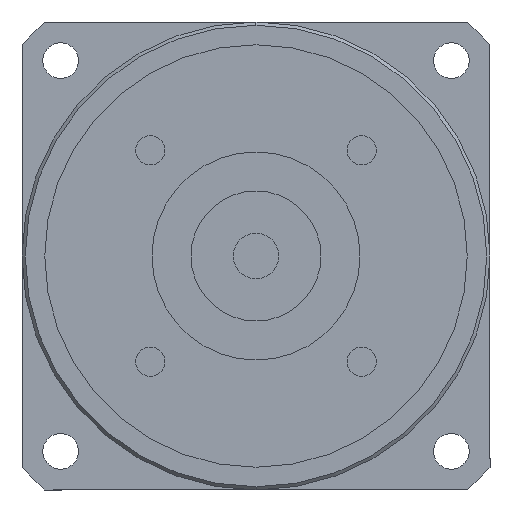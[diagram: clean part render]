
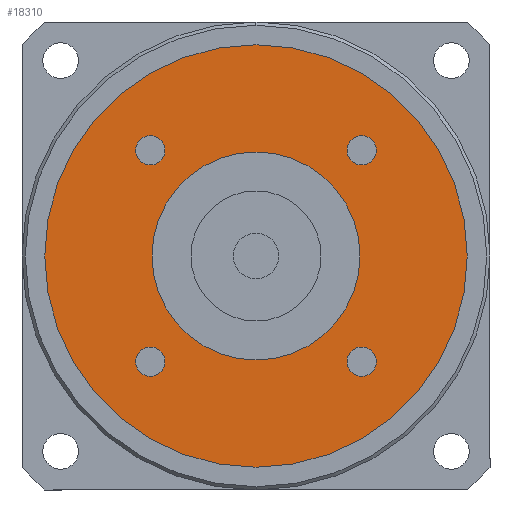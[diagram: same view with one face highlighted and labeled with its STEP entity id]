
A CAD part, left-side view. The second image highlights one B-rep face of the part: STEP entity #18310.
In plain terms, the highlighted planar face has unit normal (-1, 0, 0) as drawn and (0, 0, -1) by its records, which use the part's own axes.
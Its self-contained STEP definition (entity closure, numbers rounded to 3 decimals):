
#15130=CARTESIAN_POINT('',(-14.013,-16.263,-91.));
#15140=VERTEX_POINT('',#15130);
#15320=CARTESIAN_POINT('',(-18.513,-16.263,-91.));
#15330=VERTEX_POINT('',#15320);
#15360=CARTESIAN_POINT('',(-16.263,-16.263,-91.));
#15370=DIRECTION('',(0.,0.,-1.));
#15380=DIRECTION('',(0.,-1.,0.));
#15390=AXIS2_PLACEMENT_3D('',#15360,#15370,#15380);
#15400=CIRCLE('',#15390,2.25);
#15410=CARTESIAN_POINT('',(-16.263,-18.513,-91.));
#15420=VERTEX_POINT('',#15410);
#15430=EDGE_CURVE('',#15420,#15330,#15400,.T.);
#15450=EDGE_CURVE('',#15140,#15420,#15400,.T.);
#15550=CARTESIAN_POINT('',(0.,0.,
-91.));
#15560=DIRECTION('',(0.,0.,1.));
#15570=DIRECTION('',(0.,-1.,0.));
#15580=AXIS2_PLACEMENT_3D('',#15550,#15560,#15570);
#15590=CIRCLE('',#15580,16.);
#15600=CARTESIAN_POINT('',(0.,-16.,-91.));
#15610=VERTEX_POINT('',#15600);
#15620=CARTESIAN_POINT('',(16.,0.,-91.));
#15630=VERTEX_POINT('',#15620);
#15640=EDGE_CURVE('',#15610,#15630,#15590,.T.);
#15870=CARTESIAN_POINT('',(-16.,0.,-91.));
#15880=VERTEX_POINT('',#15870);
#15910=EDGE_CURVE('',#15880,#15610,#15590,.T.);
#17240=CARTESIAN_POINT('',(32.5,0.,-91.));
#17250=VERTEX_POINT('',#17240);
#17280=CARTESIAN_POINT('',(0.,0.,
-91.));
#17290=DIRECTION('',(0.,0.,1.));
#17300=DIRECTION('',(0.,-1.,0.));
#17310=AXIS2_PLACEMENT_3D('',#17280,#17290,#17300);
#17320=CIRCLE('',#17310,32.5);
#17330=CARTESIAN_POINT('',(0.,-32.5,-91.));
#17340=VERTEX_POINT('',#17330);
#17350=EDGE_CURVE('',#17340,#17250,#17320,.T.);
#17370=CARTESIAN_POINT('',(-32.5,0.,-91.));
#17380=VERTEX_POINT('',#17370);
#17390=EDGE_CURVE('',#17380,#17340,#17320,.T.);
#17510=CARTESIAN_POINT('',(0.,0.,
-91.));
#17520=DIRECTION('',(0.,0.,1.));
#17530=DIRECTION('',(-1.,0.,0.));
#17540=AXIS2_PLACEMENT_3D('',#17510,#17520,#17530);
#17550=PLANE('',#17540);
#17560=CARTESIAN_POINT('',(16.263,-16.263,-91.));
#17570=DIRECTION('',(0.,0.,-1.));
#17580=DIRECTION('',(1.,0.,0.));
#17590=AXIS2_PLACEMENT_3D('',#17560,#17570,#17580);
#17600=CIRCLE('',#17590,2.25);
#17610=CARTESIAN_POINT('',(18.513,-16.263,-91.));
#17620=VERTEX_POINT('',#17610);
#17630=CARTESIAN_POINT('',(16.263,-18.513,-91.));
#17640=VERTEX_POINT('',#17630);
#17650=EDGE_CURVE('',#17620,#17640,#17600,.T.);
#17660=ORIENTED_EDGE('',*,*,#17650,.F.);
#17670=CARTESIAN_POINT('',(16.263,-14.013,-91.));
#17680=VERTEX_POINT('',#17670);
#17690=EDGE_CURVE('',#17640,#17680,#17600,.T.);
#17700=ORIENTED_EDGE('',*,*,#17690,.F.);
#17710=EDGE_CURVE('',#17680,#17620,#17600,.T.);
#17720=ORIENTED_EDGE('',*,*,#17710,.F.);
#17730=EDGE_LOOP('',(#17720,#17700,#17660));
#17740=FACE_BOUND('',#17730,.T.);
#17750=CARTESIAN_POINT('',(16.263,16.263,-91.));
#17760=DIRECTION('',(0.,0.,-1.));
#17770=DIRECTION('',(0.,1.,0.));
#17780=AXIS2_PLACEMENT_3D('',#17750,#17760,#17770);
#17790=CIRCLE('',#17780,2.25);
#17800=CARTESIAN_POINT('',(16.263,18.513,-91.));
#17810=VERTEX_POINT('',#17800);
#17820=CARTESIAN_POINT('',(18.513,16.263,-91.));
#17830=VERTEX_POINT('',#17820);
#17840=EDGE_CURVE('',#17810,#17830,#17790,.T.);
#17850=ORIENTED_EDGE('',*,*,#17840,.F.);
#17860=CARTESIAN_POINT('',(14.013,16.263,-91.));
#17870=VERTEX_POINT('',#17860);
#17880=EDGE_CURVE('',#17830,#17870,#17790,.T.);
#17890=ORIENTED_EDGE('',*,*,#17880,.F.);
#17900=EDGE_CURVE('',#17870,#17810,#17790,.T.);
#17910=ORIENTED_EDGE('',*,*,#17900,.F.);
#17920=EDGE_LOOP('',(#17910,#17890,#17850));
#17930=FACE_BOUND('',#17920,.T.);
#17940=CARTESIAN_POINT('',(-16.263,16.263,-91.));
#17950=DIRECTION('',(0.,0.,-1.));
#17960=DIRECTION('',(-1.,0.,0.));
#17970=AXIS2_PLACEMENT_3D('',#17940,#17950,#17960);
#17980=CIRCLE('',#17970,2.25);
#17990=CARTESIAN_POINT('',(-18.513,16.263,-91.));
#18000=VERTEX_POINT('',#17990);
#18010=CARTESIAN_POINT('',(-16.263,18.513,-91.));
#18020=VERTEX_POINT('',#18010);
#18030=EDGE_CURVE('',#18000,#18020,#17980,.T.);
#18040=ORIENTED_EDGE('',*,*,#18030,.F.);
#18050=CARTESIAN_POINT('',(-16.263,14.013,-91.));
#18060=VERTEX_POINT('',#18050);
#18070=EDGE_CURVE('',#18020,#18060,#17980,.T.);
#18080=ORIENTED_EDGE('',*,*,#18070,.F.);
#18090=EDGE_CURVE('',#18060,#18000,#17980,.T.);
#18100=ORIENTED_EDGE('',*,*,#18090,.F.);
#18110=EDGE_LOOP('',(#18100,#18080,#18040));
#18120=FACE_BOUND('',#18110,.T.);
#18130=ORIENTED_EDGE('',*,*,#15430,.F.);
#18140=EDGE_CURVE('',#15330,#15140,#15400,.T.);
#18150=ORIENTED_EDGE('',*,*,#18140,.F.);
#18160=ORIENTED_EDGE('',*,*,#15450,.F.);
#18170=EDGE_LOOP('',(#18160,#18150,#18130));
#18180=FACE_BOUND('',#18170,.T.);
#18190=ORIENTED_EDGE('',*,*,#17350,.F.);
#18200=EDGE_CURVE('',#17250,#17380,#17320,.T.);
#18210=ORIENTED_EDGE('',*,*,#18200,.F.);
#18220=ORIENTED_EDGE('',*,*,#17390,.F.);
#18230=EDGE_LOOP('',(#18220,#18210,#18190));
#18240=FACE_OUTER_BOUND('',#18230,.T.);
#18250=EDGE_CURVE('',#15630,#15880,#15590,.T.);
#18260=ORIENTED_EDGE('',*,*,#18250,.T.);
#18270=ORIENTED_EDGE('',*,*,#15640,.T.);
#18280=ORIENTED_EDGE('',*,*,#15910,.T.);
#18290=EDGE_LOOP('',(#18280,#18270,#18260));
#18300=FACE_BOUND('',#18290,.T.);
#18310=ADVANCED_FACE('',(#17740,#17930,#18120,#18180,#18240,#18300),
#17550,.F.);
